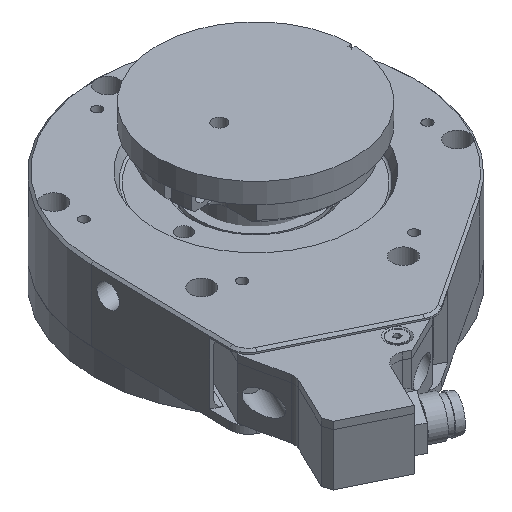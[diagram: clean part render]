
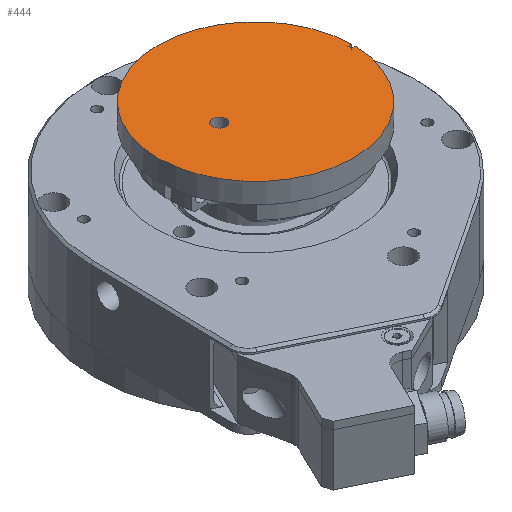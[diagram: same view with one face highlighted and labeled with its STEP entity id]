
A CAD part, isometric view. The second image highlights one B-rep face of the part: STEP entity #444.
In plain terms, the highlighted planar face has unit normal (0, 0, 1).
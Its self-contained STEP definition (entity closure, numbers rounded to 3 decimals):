
#444 = ADVANCED_FACE( '', ( #1191, #1192 ), #1193, .F. );
#1191 = FACE_BOUND( '', #2673, .T. );
#1192 = FACE_OUTER_BOUND( '', #2674, .T. );
#1193 = PLANE( '', #2675 );
#2673 = EDGE_LOOP( '', ( #4748 ) );
#2674 = EDGE_LOOP( '', ( #4749, #4750, #4751, #4752 ) );
#2675 = AXIS2_PLACEMENT_3D( '', #4753, #4754, #4755 );
#4748 = ORIENTED_EDGE( '', *, *, #7697, .F. );
#4749 = ORIENTED_EDGE( '', *, *, #7696, .T. );
#4750 = ORIENTED_EDGE( '', *, *, #7692, .F. );
#4751 = ORIENTED_EDGE( '', *, *, #7698, .F. );
#4752 = ORIENTED_EDGE( '', *, *, #7694, .T. );
#4753 = CARTESIAN_POINT( '', ( 0., 0., 0. ) );
#4754 = DIRECTION( '', ( 0., 0., -1. ) );
#4755 = DIRECTION( '', ( -1., 0., 0. ) );
#7692 = EDGE_CURVE( '', #8913, #8911, #8915, .T. );
#7694 = EDGE_CURVE( '', #8918, #8916, #8919, .T. );
#7696 = EDGE_CURVE( '', #8916, #8911, #8921, .T. );
#7697 = EDGE_CURVE( '', #8922, #8922, #8923, .T. );
#7698 = EDGE_CURVE( '', #8918, #8913, #8924, .T. );
#8911 = VERTEX_POINT( '', #10859 );
#8913 = VERTEX_POINT( '', #10862 );
#8915 = CIRCLE( '', #10865, 21.5 );
#8916 = VERTEX_POINT( '', #10866 );
#8918 = VERTEX_POINT( '', #10869 );
#8919 = LINE( '', #10870, #10871 );
#8921 = LINE( '', #10874, #10875 );
#8922 = VERTEX_POINT( '', #10876 );
#8923 = CIRCLE( '', #10877, 1.498 );
#8924 = LINE( '', #10878, #10879 );
#10859 = CARTESIAN_POINT( '', ( 21.496, 0.4, 0. ) );
#10862 = CARTESIAN_POINT( '', ( 21.496, -0.4, 0. ) );
#10865 = AXIS2_PLACEMENT_3D( '', #14035, #14036, #14037 );
#10866 = CARTESIAN_POINT( '', ( 20.7, 0.4, 0. ) );
#10869 = CARTESIAN_POINT( '', ( 20.7, -0.4, 0. ) );
#10870 = CARTESIAN_POINT( '', ( 20.7, 0.4, 0. ) );
#10871 = VECTOR( '', #14039, 1000. );
#10874 = CARTESIAN_POINT( '', ( 20.7, 0.4, 0. ) );
#10875 = VECTOR( '', #14041, 1000. );
#10876 = CARTESIAN_POINT( '', ( -6.503, 0., 0. ) );
#10877 = AXIS2_PLACEMENT_3D( '', #14042, #14043, #14044 );
#10878 = CARTESIAN_POINT( '', ( 0., -0.4, 0. ) );
#10879 = VECTOR( '', #14045, 1000. );
#14035 = CARTESIAN_POINT( '', ( 0., 0., 0. ) );
#14036 = DIRECTION( '', ( 0., 0., -1. ) );
#14037 = DIRECTION( '', ( 1., 0., 0. ) );
#14039 = DIRECTION( '', ( 0., 1., 0. ) );
#14041 = DIRECTION( '', ( 1., 0., 0. ) );
#14042 = CARTESIAN_POINT( '', ( -8., 0., 0. ) );
#14043 = DIRECTION( '', ( 0., 0., 1. ) );
#14044 = DIRECTION( '', ( 1., 0., 0. ) );
#14045 = DIRECTION( '', ( 1., 0., 0. ) );
